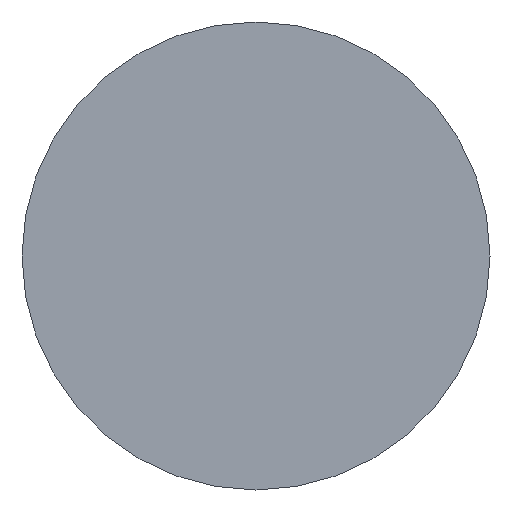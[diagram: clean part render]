
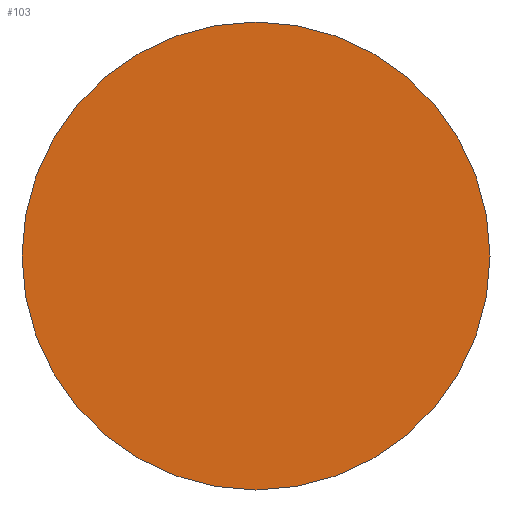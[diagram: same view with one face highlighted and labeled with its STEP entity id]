
A CAD part, front view. The second image highlights one B-rep face of the part: STEP entity #103.
In plain terms, the highlighted planar face has unit normal (0, -1, 0).
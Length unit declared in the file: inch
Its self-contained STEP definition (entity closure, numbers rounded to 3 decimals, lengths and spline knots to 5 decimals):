
#26=FACE_OUTER_BOUND('',#33,.T.);
#33=EDGE_LOOP('',(#93,#94));
#44=CIRCLE('',#133,0.375);
#45=CIRCLE('',#134,0.375);
#54=VERTEX_POINT('',#199);
#55=VERTEX_POINT('',#200);
#66=EDGE_CURVE('',#54,#55,#44,.T.);
#67=EDGE_CURVE('',#55,#54,#45,.T.);
#93=ORIENTED_EDGE('',*,*,#66,.T.);
#94=ORIENTED_EDGE('',*,*,#67,.T.);
#97=PLANE('',#135);
#103=ADVANCED_FACE('',(#26),#97,.T.);
#133=AXIS2_PLACEMENT_3D('',#201,#168,#169);
#134=AXIS2_PLACEMENT_3D('',#202,#170,#171);
#135=AXIS2_PLACEMENT_3D('',#204,#173,#174);
#168=DIRECTION('center_axis',(0.,-1.,0.));
#169=DIRECTION('ref_axis',(1.,0.,0.));
#170=DIRECTION('center_axis',(0.,-1.,0.));
#171=DIRECTION('ref_axis',(1.,0.,0.));
#173=DIRECTION('center_axis',(0.,-1.,0.));
#174=DIRECTION('ref_axis',(0.,0.,-1.));
#199=CARTESIAN_POINT('',(0.375,0.,0.));
#200=CARTESIAN_POINT('',(-0.375,0.,0.));
#201=CARTESIAN_POINT('Origin',(0.,0.,0.));
#202=CARTESIAN_POINT('Origin',(0.,0.,0.));
#204=CARTESIAN_POINT('Origin',(0.,0.,0.));
